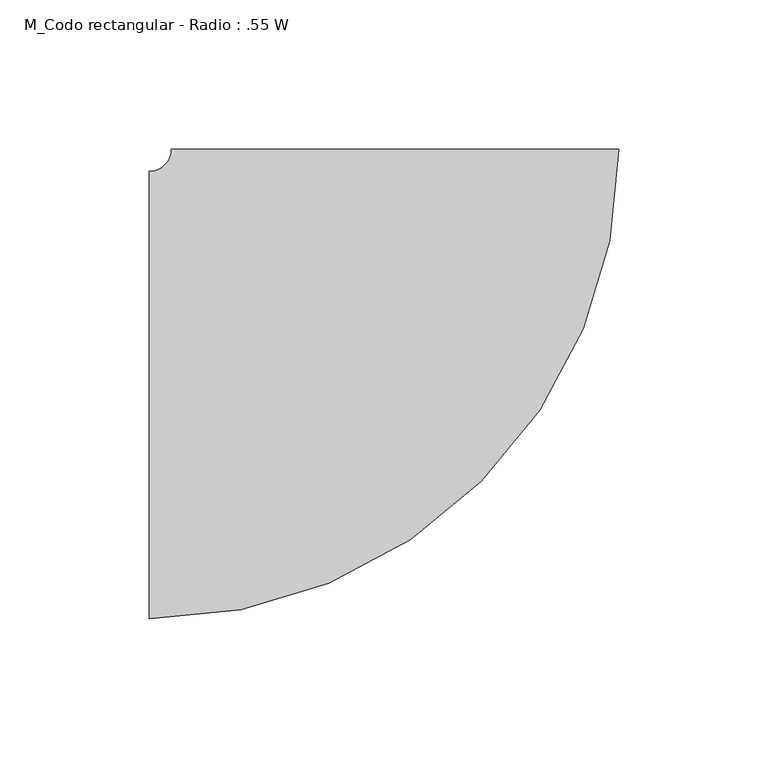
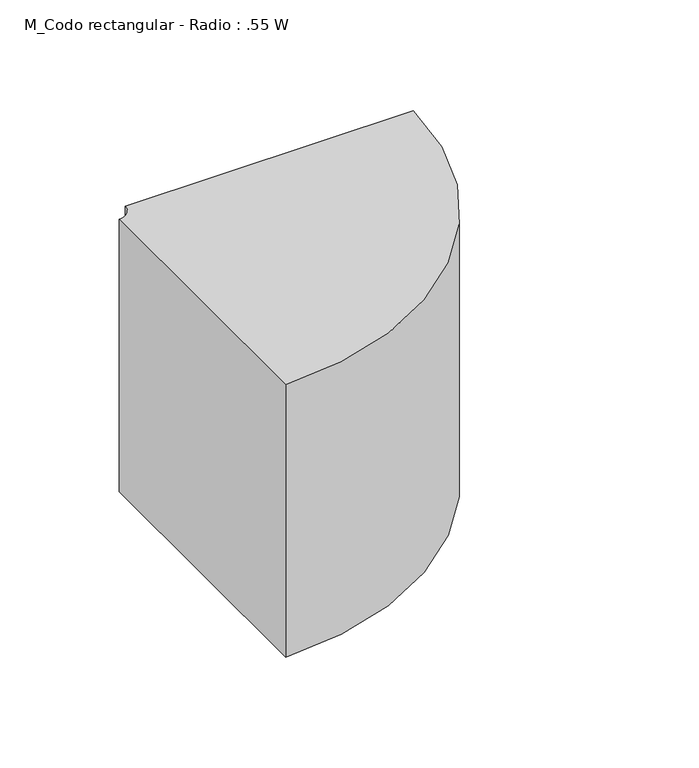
"""IFC4 building model written with IfcOpenShell, lengths in millimetres: duct fitting geometry, M_Codo rectangular - Radio : .55 W."""

from ifc_helpers import new_model, si_unit, point, frame, frame_2d, origin, place, context, project, spatial, polyline, circle_curve, trimmed, segment, composite_curve, outline, extrude, source, transform, mapped, element, save


def m_codo_rectangular_radio_55_w_fc38f56a(model_context):
    return source(origin(), model_context, "Body", "SweptSolid", [
        extrude(outline(composite_curve([segment(trimmed(circle_curve(frame_2d((-82.5, 82.5)), 157.5), [point((75.0, 82.5))], [point((-82.5, -75.0))], False, "CARTESIAN"), True, "CONTINUOUS"), segment(polyline([(-82.5, -75.0), (-82.5, 75.0)]), True, "CONTINUOUS"), segment(trimmed(circle_curve(frame_2d((-82.5, 82.5)), 7.5), [point((-82.5, 75.0))], [point((-75.0, 82.5))], True, "CARTESIAN"), True, "CONTINUOUS"), segment(polyline([(-75.0, 82.5), (75.0, 82.5)]), True, "CONTINUOUS")], self_intersect=False)), frame((0.0, 0.0, -75.0), z_axis=(0.0, 0.0, 1.0), x_axis=(1.0, 0.0, 0.0)), (0.0, 0.0, 1.0), 150.0),
    ])


if __name__ == "__main__":
    model = new_model("IFC4")
    model_context = context("Model", 3, world=origin())
    ifc_project = project(units=[si_unit("LENGTHUNIT", "METRE", prefix="MILLI")], contexts=[model_context])
    site = spatial("IfcSite", under=ifc_project)
    building = spatial("IfcBuilding", under=site)
    placement = place(None, origin())
    m_codo_rectangular_radio_55_w_shape = m_codo_rectangular_radio_55_w_fc38f56a(model_context)
    element("IfcDuctFitting", 1, ObjectType="M_Codo rectangular - Radio : .55 W", at=placement, inside=building, context=model_context, shape_type="MappedRepresentation", body=[
        mapped(m_codo_rectangular_radio_55_w_shape, transform((0.0, 0.0, 0.0), x_axis=(1.0, 0.0, 0.0), y_axis=(0.0, 1.0, 0.0), z_axis=(0.0, 0.0, 1.0))),
    ])
    save(model, "model.ifc")
